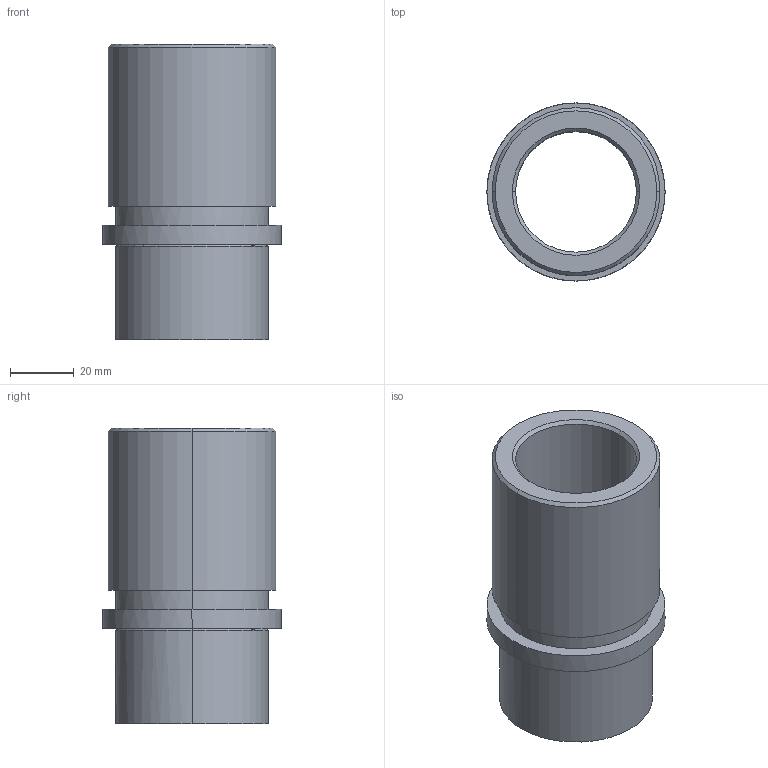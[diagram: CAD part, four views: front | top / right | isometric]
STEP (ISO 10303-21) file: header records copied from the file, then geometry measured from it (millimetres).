
FILE_DESCRIPTION(('CATIA V5 STEP Exchange'),'2;1');
FILE_NAME('C:\Users\Utente\Desktop\IO LAVORO\3D X SITO CF\X SITO\733\733-30.stp','2021-01-11T17:37:20+00:00',('none'),('none'),'CATIA Version 5 Release 20 GA (IN-10)','CATIA V5 STEP AP203','none');
FILE_SCHEMA(('CONFIG_CONTROL_DESIGN'));
Length unit declared in the file: millimetre
Products named in the file (1): 733-30
Assembly tree (1 placements, depth 2):
  733-30
    #58
Bounding box: 56 x 56 x 93 mm (x, y, z)
Volume: 85786.4 mm3; surface area: 29470.4 mm2
Topology: 1 solids, 1 shells, 25 faces, 50 edges, 30 vertices
Faces by surface type: cylinder 10, cone 6, plane 5, torus 4
Entity records: 851 total; most frequent: CARTESIAN_POINT 282, ORIENTED_EDGE 100, DIRECTION 96, AXIS2_PLACEMENT_3D 53, EDGE_CURVE 50, EDGE_LOOP 30, VERTEX_POINT 30, CIRCLE 26
